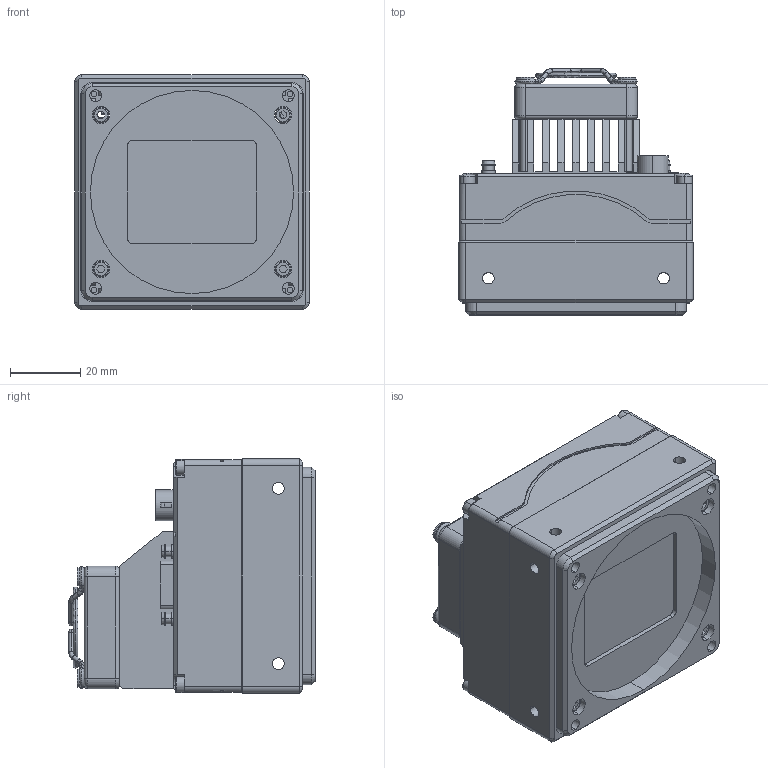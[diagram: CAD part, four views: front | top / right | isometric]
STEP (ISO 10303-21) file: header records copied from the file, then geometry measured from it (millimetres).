
FILE_DESCRIPTION (( 'STEP AP203' ), '1' );
FILE_NAME ('TS65MCL-12M-A01-V1.1.0-三维模型.STEP', '2022-12-05T12:18:27', ( '微软用户' ), ( '微软中国' ), 'SwSTEP 2.0', 'SolidWorks 2017', '' );
FILE_SCHEMA (( 'CONFIG_CONTROL_DESIGN' ));
Length unit declared in the file: millimetre
Products named in the file (1): TS65MCL-12M-A01-V1.1.0-三维模型
Bounding box: 67 x 70.26 x 67 mm (x, y, z)
Surface area: 42256.8 mm2 (no closed solid volume)
Topology: 0 solids, 76 shells, 987 faces, 3461 edges, 2505 vertices
Faces by surface type: plane 536, cylinder 314, bspline 56, cone 50, torus 24, sphere 7
Entity records: 39580 total; most frequent: CARTESIAN_POINT 10245, DIRECTION 6055, ORIENTED_EDGE 5521, EDGE_CURVE 3438, VERTEX_POINT 2497, LINE 2305, VECTOR 2305, AXIS2_PLACEMENT_3D 1875
